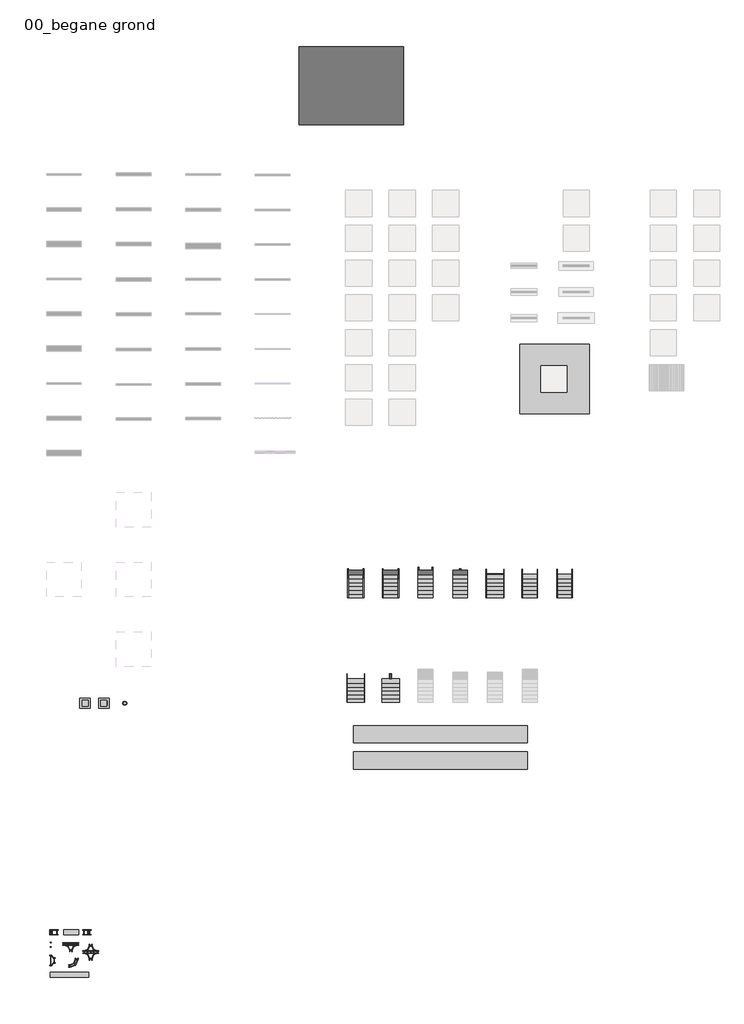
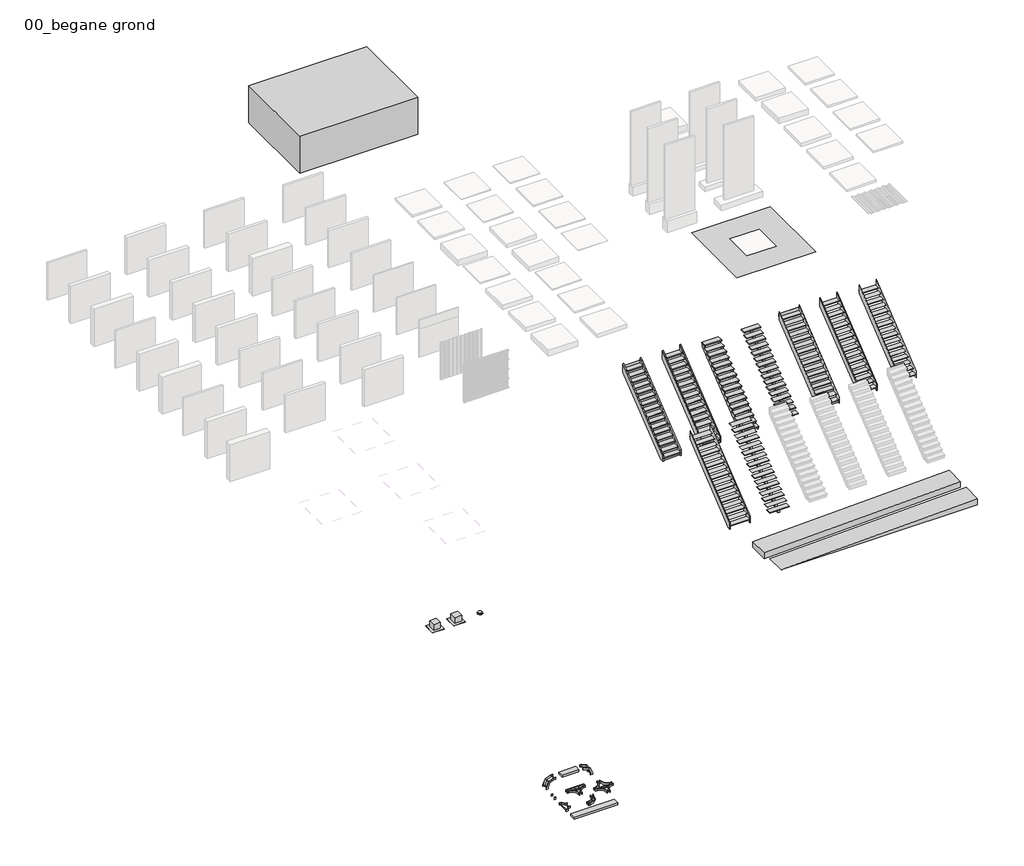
# One storey, part 3 of 3: 16 members, 9 stair flights, 7 cable carrier fittings, 3 air terminals, 2 cable carrier segments, 2 proxies, 2 ramps.
"""IFC4 building model written with IfcOpenShell, lengths in millimetres."""

from ifc_helpers import new_model, si_unit, frame, origin, origin_with_axes, place, context, project, spatial, polyline, outline, extrude, faceted_brep, triangles, transform, mapped, element, save
from components import air_terminal_7d5c8a7b, air_terminal_4e0f3b99, cable_carrier_fitting_0a3ec64d, cable_carrier_fitting_04c8f7b9, cable_carrier_fitting_357548b9, cable_carrier_fitting_f7e50797, cable_carrier_fitting_660f6fb6, t_stuk_radius_300_37264464, bocht_standaard_0cc64df2, ramp_d673f055, ramp_a4a3c088, stair_flight_aef03ee1, stair_flight_0d75ee49, stair_flight_a9d19ed3, stair_flight_d911f600, stair_flight_034ae34c, stair_flight_6bf14399, stair_flight_bdb9c17e, stair_flight_ba551373, stair_flight_c36d8fac

model = new_model("IFC4")

# Units and contexts
model_context = context("Model", 3, world=origin())
ifc_project = project(units=[si_unit("LENGTHUNIT", "METRE", prefix="MILLI")], contexts=[model_context])

# Site, building, storey
site = spatial("IfcSite", under=ifc_project)
building = spatial("IfcBuilding", under=site)
storey = spatial("IfcBuildingStorey", under=building, Name="00_begane grond", Elevation=0.0)

# Air terminals
placement = place(None, origin())
air_terminal_shape = air_terminal_7d5c8a7b(model_context)
element("IfcAirTerminal", 1, ObjectType="57_AT_afv_rozet_FB : afvoer_rozet_kanaaldiameter_200", at=placement, inside=storey, context=model_context, shape_type="MappedRepresentation", body=[
    mapped(air_terminal_shape, transform((4501.3584276, -31370.8951916, 0.0), x_axis=(1.0, 0.0, 0.0), y_axis=(0.0, 1.0, 0.0), z_axis=(0.0, 0.0, 1.0))),
])
air_terminal_2_shape = air_terminal_4e0f3b99(model_context)
element("IfcAirTerminal", 2, ObjectType="57_AT_plafondrooster_toev_rond_kanaal_FB : aanvoer_plafondrooster_kanaaldiameter_250", at=placement, inside=storey, context=model_context, shape_type="MappedRepresentation", body=[
    mapped(air_terminal_2_shape, transform((3290.0226863, -31370.8951916, 0.0), x_axis=(1.0, 0.0, 0.0), y_axis=(0.0, 1.0, 0.0), z_axis=(0.0, 0.0, 1.0))),
])
element("IfcAirTerminal", 3, ObjectType="57_AT_plafondrooster_afv_rond_kanaal_FB : afvoer_plafondrooster_kanaaldiameter_250", at=placement, inside=storey, context=model_context, shape_type="MappedRepresentation", body=[
    mapped(air_terminal_2_shape, transform((2213.5065389, -31370.8951916, 0.0), x_axis=(1.0000000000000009, 0.0, 0.0), y_axis=(0.0, 1.0000000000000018, 0.0), z_axis=(0.0, 0.0, 1.0000000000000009))),
])

# Proxies
element("IfcBuildingElementProxy", 4, Name="Building Element Proxy", at=placement, inside=storey, context=model_context, shape_type="Tessellation", body=[
    triangles([(31193.3471558, -10755.0005035, 0.0), (27193.3471252, -10755.0005035, 0.0), (27193.3471252, -14734.9994293, 0.0), (31193.3471558, -14734.9994293, 0.0), (29913.3485413, -13494.9995361, 0.0), (28413.3470764, -13494.9995361, 0.0), (28413.3470764, -11995.0003967, 0.0), (28439.5780334, -11995.0003967, 0.0), (29913.3485413, -11995.0003967, 0.0), (29913.3485413, -13461.4004242, 0.0)], [[3, 6, 2], [6, 3, 5], [2, 7, 8], [7, 2, 6], [2, 8, 9], [5, 4, 10], [4, 5, 3], [10, 1, 9], [1, 10, 4], [9, 1, 2]], closed=False),
])
element("IfcBuildingElementProxy", 5, Name="00_Mass_bestaand : 00_Mass_bestaand", ObjectType="00_Mass_bestaand : 00_Mass_bestaand", at=placement, inside=storey, context=model_context, shape_type="SweptSolid", body=[
    extrude(outline(polyline([(20515.0516087, 1866.0501739), (14515.0516087, 1866.0501739), (14515.0516087, 6346.7455253), (20515.0516087, 6346.7455253), (20515.0516087, 1866.0501739)])), origin_with_axes(), (0.0, 0.0, 1.0), 2000.0),
])

# Cable carrier fittings
cable_carrier_fitting_shape = cable_carrier_fitting_0a3ec64d(model_context)
element("IfcCableCarrierFitting", 6, ObjectType="61_CTF_kabelgoot_open_verbinding : verbindingsstuk, standaard", at=placement, inside=storey, context=model_context, shape_type="MappedRepresentation", body=[
    mapped(cable_carrier_fitting_shape, transform((204.2081152, -45238.8426915, 0.0), x_axis=(1.0, 0.0, 0.0), y_axis=(0.0, 1.0, 0.0), z_axis=(0.0, 0.0, 1.0))),
])
cable_carrier_fitting_2_shape = cable_carrier_fitting_04c8f7b9(model_context)
element("IfcCableCarrierFitting", 7, ObjectType="61_CTF_kabelgoot_open_verloop : verloopstuk, standaard", at=placement, inside=storey, context=model_context, shape_type="MappedRepresentation", body=[
    mapped(cable_carrier_fitting_2_shape, transform((192.3885863, -46147.5301991, 0.0), x_axis=(1.0, 0.0, 0.0), y_axis=(0.0, 1.0, 0.0), z_axis=(0.0, 0.0, 1.0))),
])
cable_carrier_fitting_3_shape = cable_carrier_fitting_357548b9(model_context)
element("IfcCableCarrierFitting", 8, ObjectType="61_CTF_kabelgoot_open_bocht_verticaal_buiten : bocht verticaal buiten, standaard", at=placement, inside=storey, context=model_context, shape_type="MappedRepresentation", body=[
    mapped(cable_carrier_fitting_3_shape, transform((2510.1495712, -44528.0962466, 492.4203814), x_axis=(1.0, 0.0, 0.0), y_axis=(0.0, 0.0, 1.0), z_axis=(0.0, -1.0, 0.0))),
])
cable_carrier_fitting_4_shape = cable_carrier_fitting_f7e50797(model_context)
element("IfcCableCarrierFitting", 9, ObjectType="61_CTF_kabelgoot_open_bocht_verticaal_binnen : bocht verticaal binnen, standaard", at=placement, inside=storey, context=model_context, shape_type="MappedRepresentation", body=[
    mapped(cable_carrier_fitting_4_shape, transform((247.461144, -44528.0962466, 492.4203814), x_axis=(-1.0, 0.0, 0.0), y_axis=(0.0, 0.0, 1.0), z_axis=(0.0, 1.0, 0.0))),
])
cable_carrier_fitting_5_shape = cable_carrier_fitting_660f6fb6(model_context)
element("IfcCableCarrierFitting", 10, ObjectType="61_CTF_kabelgoot_open_kruising : kruising, radius_300", at=placement, inside=storey, context=model_context, shape_type="MappedRepresentation", body=[
    mapped(cable_carrier_fitting_5_shape, transform((2540.7858423, -45666.2868281, 0.0), x_axis=(1.0, 0.0, 0.0), y_axis=(0.0, 1.0, 0.0), z_axis=(0.0, 0.0, 1.0))),
])
t_stuk_radius_300_shape = t_stuk_radius_300_37264464(model_context)
element("IfcCableCarrierFitting", 11, ObjectType="61_CTF_kabelgoot_open_Tsplitsing : T-stuk, radius_300", at=placement, inside=storey, context=model_context, shape_type="MappedRepresentation", body=[
    mapped(t_stuk_radius_300_shape, transform((1396.1092616, -45190.884832, 0.0), x_axis=(1.0, 0.0, 0.0), y_axis=(0.0, 1.0, 0.0), z_axis=(0.0, 0.0, 1.0))),
])
bocht_standaard_shape = bocht_standaard_0cc64df2(model_context)
element("IfcCableCarrierFitting", 12, ObjectType="61_CTF_kabelgoot_open_bocht_horizontaal : bocht, standaard", at=placement, inside=storey, context=model_context, shape_type="MappedRepresentation", body=[
    mapped(bocht_standaard_shape, transform((1733.5288566, -46462.2769125, 0.0), x_axis=(1.0, 0.0, 0.0), y_axis=(0.0, 1.0, 0.0), z_axis=(0.0, 0.0, 1.0))),
])

# Cable carrier segments
element("IfcCableCarrierSegment", 13, ObjectType="61_CT_kabelgoot_open", at=placement, inside=storey, context=model_context, shape_type="SweptSolid", body=[
    extrude(outline(polyline([(1000.0, -44678.0962466), (1000.0, -44378.0962466), (1860.0, -44378.0962466), (1860.0, -44678.0962466), (1000.0, -44678.0962466)])), frame((0.0, 0.0, 442.4203814), z_axis=(0.0, 0.0, 1.0), x_axis=(1.0, 0.0, 0.0)), (0.0, 0.0, 1.0), 100.0),
])
element("IfcCableCarrierSegment", 14, ObjectType="61_CT_kabelgoot_open", at=placement, inside=storey, context=model_context, shape_type="SweptSolid", body=[
    extrude(outline(polyline([(212.5341088, -47119.218937), (212.5341088, -46819.218937), (2432.5341088, -46819.218937), (2432.5341088, -47119.218937), (212.5341088, -47119.218937)])), frame((0.0, 0.0, -50.0), z_axis=(0.0, 0.0, 1.0), x_axis=(1.0, 0.0, 0.0)), (0.0, 0.0, 1.0), 100.0),
])

# Members
element("IfcMember", 15, ObjectType="24_STS_trapboom_hout_vuren_45x50", at=placement, inside=storey, context=model_context, shape_type="SweptSolid", body=[
    extrude(outline(polyline([(-25324.6322236, 0.0), (-25324.6322236, 296.4603123), (-21804.6322236, 3119.989724), (-21804.6322236, 2671.3029604), (-25134.8565809, 0.0), (-25324.6322236, 0.0)])), frame((17304.8089026, 0.0, 0.0), z_axis=(1.0, 0.0, 0.0), x_axis=(0.0, 1.0, 0.0)), (0.0, 0.0, 1.0), 45.0),
])
element("IfcMember", 16, ObjectType="24_STS_trapboom_hout_vuren_45x50", at=placement, inside=storey, context=model_context, shape_type="SweptSolid", body=[
    extrude(outline(polyline([(-25324.6322236, 0.0), (-25324.6322236, 296.4603123), (-21804.6322236, 3119.989724), (-21804.6322236, 2671.3029604), (-25134.8565809, 0.0), (-25324.6322236, 0.0)])), frame((18199.8089026, 0.0, 0.0), z_axis=(1.0, 0.0, 0.0), x_axis=(0.0, 1.0, 0.0)), (0.0, 0.0, 1.0), 45.0),
])
element("IfcMember", 17, ObjectType="24_STS_trapboom_hout_vuren_45x50", at=placement, inside=storey, context=model_context, shape_type="SweptSolid", body=[
    extrude(outline(polyline([(-25324.6322236, 0.0), (-25324.6322236, 304.4817026), (-21804.6322236, 3128.0111144), (-21804.6322236, 2679.3243508), (-25144.8565809, 0.0), (-25324.6322236, 0.0)])), frame((19304.8089026, 0.0, 0.0), z_axis=(1.0, 0.0, 0.0), x_axis=(0.0, 1.0, 0.0)), (0.0, 0.0, 1.0), 45.0),
])
element("IfcMember", 18, ObjectType="24_STS_trapboom_hout_vuren_45x50", at=placement, inside=storey, context=model_context, shape_type="SweptSolid", body=[
    extrude(outline(polyline([(-25324.6322236, 0.0), (-25324.6322236, 304.4817026), (-21804.6322236, 3128.0111144), (-21804.6322236, 2679.3243508), (-25144.8565809, 0.0), (-25324.6322236, 0.0)])), frame((20199.8089026, 0.0, 0.0), z_axis=(1.0, 0.0, 0.0), x_axis=(0.0, 1.0, 0.0)), (0.0, 0.0, 1.0), 45.0),
])
element("IfcMember", 19, ObjectType="24_STC_middenboom_hout_vuren_45x100", at=placement, inside=storey, context=model_context, shape_type="Brep", body=[
    faceted_brep([(21349.8089026, -25274.6322236, 0.0), (21349.8089026, -25064.9476049, 0.0), (21394.8089026, -25064.9476049, 0.0), (21394.8089026, -25274.6322236, 0.0), (21394.8089026, -21804.6322236, 2615.2262417), (21349.8089026, -21804.6322236, 2615.2262417), (21349.8089026, -21804.6322236, 2783.5294118), (21394.8089026, -21804.6322236, 2783.5294118), (21349.8089026, -25054.6322236, 8.2743701), (21349.8089026, -24834.6322236, 184.7449583), (21349.8089026, -24614.6322236, 361.2155465), (21349.8089026, -24394.6322236, 537.6861348), (21349.8089026, -24174.6322236, 714.156723), (21349.8089026, -23954.6322236, 890.6273112), (21349.8089026, -23734.6322236, 1067.0978995), (21349.8089026, -23514.6322236, 1243.5684877), (21349.8089026, -23294.6322236, 1420.0390759), (21349.8089026, -23074.6322236, 1596.5096642), (21349.8089026, -22854.6322236, 1772.9802524), (21349.8089026, -22634.6322236, 1949.4508407), (21349.8089026, -22414.6322236, 2125.9214289), (21349.8089026, -22194.6322236, 2302.3920171), (21349.8089026, -21974.6322236, 2478.8626054), (21349.8089026, -25274.6322236, 136.4705882), (21349.8089026, -25054.6322236, 136.4705882), (21349.8089026, -25054.6322236, 312.9411765), (21349.8089026, -24834.6322236, 312.9411765), (21349.8089026, -24834.6322236, 489.4117647), (21349.8089026, -24614.6322236, 489.4117647), (21349.8089026, -24614.6322236, 665.8823529), (21349.8089026, -24394.6322236, 665.8823529), (21349.8089026, -24394.6322236, 842.3529412), (21349.8089026, -24174.6322236, 842.3529412), (21349.8089026, -24174.6322236, 1018.8235294), (21349.8089026, -23954.6322236, 1018.8235294), (21349.8089026, -23954.6322236, 1195.2941176), (21349.8089026, -23734.6322236, 1195.2941176), (21349.8089026, -23734.6322236, 1371.7647059), (21349.8089026, -23514.6322236, 1371.7647059), (21349.8089026, -23514.6322236, 1548.2352941), (21349.8089026, -23294.6322236, 1548.2352941), (21349.8089026, -23294.6322236, 1724.7058824), (21349.8089026, -23074.6322236, 1724.7058824), (21349.8089026, -23074.6322236, 1901.1764706), (21349.8089026, -22854.6322236, 1901.1764706), (21349.8089026, -22854.6322236, 2077.6470588), (21349.8089026, -22634.6322236, 2077.6470588), (21349.8089026, -22634.6322236, 2254.1176471), (21349.8089026, -22414.6322236, 2254.1176471), (21349.8089026, -22414.6322236, 2430.5882353), (21349.8089026, -22194.6322236, 2430.5882353), (21349.8089026, -22194.6322236, 2607.0588235), (21349.8089026, -21974.6322236, 2607.0588235), (21349.8089026, -21974.6322236, 2783.5294118), (21394.8089026, -21974.6322236, 2783.5294118), (21394.8089026, -21974.6322236, 2607.0588235), (21394.8089026, -22194.6322236, 2607.0588235), (21394.8089026, -22194.6322236, 2430.5882353), (21394.8089026, -22414.6322236, 2430.5882353), (21394.8089026, -22414.6322236, 2254.1176471), (21394.8089026, -22634.6322236, 2254.1176471), (21394.8089026, -22634.6322236, 2077.6470588), (21394.8089026, -22854.6322236, 2077.6470588), (21394.8089026, -22854.6322236, 1901.1764706), (21394.8089026, -23074.6322236, 1901.1764706), (21394.8089026, -23074.6322236, 1724.7058824), (21394.8089026, -23294.6322236, 1724.7058824), (21394.8089026, -23294.6322236, 1548.2352941), (21394.8089026, -23514.6322236, 1548.2352941), (21394.8089026, -23514.6322236, 1371.7647059), (21394.8089026, -23734.6322236, 1371.7647059), (21394.8089026, -23734.6322236, 1195.2941176), (21394.8089026, -23954.6322236, 1195.2941176), (21394.8089026, -23954.6322236, 1018.8235294), (21394.8089026, -24174.6322236, 1018.8235294), (21394.8089026, -24174.6322236, 842.3529412), (21394.8089026, -24394.6322236, 842.3529412), (21394.8089026, -24394.6322236, 665.8823529), (21394.8089026, -24614.6322236, 665.8823529), (21394.8089026, -24614.6322236, 489.4117647), (21394.8089026, -24834.6322236, 489.4117647), (21394.8089026, -24834.6322236, 312.9411765), (21394.8089026, -25054.6322236, 312.9411765), (21394.8089026, -25054.6322236, 136.4705882), (21394.8089026, -25274.6322236, 136.4705882)], [[[0, 1, 2, 3]], [[4, 5, 6, 7]], [[5, 4, 2, 1, 8, 9, 10, 11, 12, 13, 14, 15, 16, 17, 18, 19, 20, 21, 22]], [[6, 5, 22, 21, 20, 19, 18, 17, 16, 15, 14, 13, 12, 11, 10, 9, 8, 1, 0, 23, 24, 25, 26, 27, 28, 29, 30, 31, 32, 33, 34, 35, 36, 37, 38, 39, 40, 41, 42, 43, 44, 45, 46, 47, 48, 49, 50, 51, 52, 53]], [[53, 54, 7, 6]], [[4, 7, 54, 55, 56, 57, 58, 59, 60, 61, 62, 63, 64, 65, 66, 67, 68, 69, 70, 71, 72, 73, 74, 75, 76, 77, 78, 79, 80, 81, 82, 83, 84, 3, 2]], [[84, 23, 0, 3]], [[23, 84, 83, 24]], [[24, 83, 82, 25]], [[25, 82, 81, 26]], [[26, 81, 80, 27]], [[27, 80, 79, 28]], [[28, 79, 78, 29]], [[29, 78, 77, 30]], [[30, 77, 76, 31]], [[31, 76, 75, 32]], [[32, 75, 74, 33]], [[33, 74, 73, 34]], [[34, 73, 72, 35]], [[35, 72, 71, 36]], [[36, 71, 70, 37]], [[37, 70, 69, 38]], [[38, 69, 68, 39]], [[39, 68, 67, 40]], [[40, 67, 66, 41]], [[41, 66, 65, 42]], [[42, 65, 64, 43]], [[43, 64, 63, 44]], [[44, 63, 62, 45]], [[45, 62, 61, 46]], [[46, 61, 60, 47]], [[47, 60, 59, 48]], [[48, 59, 58, 49]], [[49, 58, 57, 50]], [[50, 57, 56, 51]], [[51, 56, 55, 52]], [[52, 55, 54, 53]]]),
])
element("IfcMember", 20, ObjectType="24_STC_middenboom_hout_vuren_45x100", at=placement, inside=storey, context=model_context, shape_type="Brep", body=[
    faceted_brep([(22154.8089026, -25274.6322236, 0.0), (22154.8089026, -25064.9476049, 0.0), (22199.8089026, -25064.9476049, 0.0), (22199.8089026, -25274.6322236, 0.0), (22199.8089026, -21804.6322236, 2615.2262417), (22154.8089026, -21804.6322236, 2615.2262417), (22154.8089026, -21804.6322236, 2783.5294118), (22199.8089026, -21804.6322236, 2783.5294118), (22199.8089026, -21974.6322236, 2478.8626054), (22199.8089026, -22194.6322236, 2302.3920171), (22199.8089026, -22414.6322236, 2125.9214289), (22199.8089026, -22634.6322236, 1949.4508407), (22199.8089026, -22854.6322236, 1772.9802524), (22199.8089026, -23074.6322236, 1596.5096642), (22199.8089026, -23294.6322236, 1420.0390759), (22199.8089026, -23514.6322236, 1243.5684877), (22199.8089026, -23734.6322236, 1067.0978995), (22199.8089026, -23954.6322236, 890.6273112), (22199.8089026, -24174.6322236, 714.156723), (22199.8089026, -24394.6322236, 537.6861348), (22199.8089026, -24614.6322236, 361.2155465), (22199.8089026, -24834.6322236, 184.7449583), (22199.8089026, -25054.6322236, 8.2743701), (22154.8089026, -25274.6322236, 136.4705882), (22154.8089026, -25054.6322236, 136.4705882), (22154.8089026, -25054.6322236, 312.9411765), (22154.8089026, -24834.6322236, 312.9411765), (22154.8089026, -24834.6322236, 489.4117647), (22154.8089026, -24614.6322236, 489.4117647), (22154.8089026, -24614.6322236, 665.8823529), (22154.8089026, -24394.6322236, 665.8823529), (22154.8089026, -24394.6322236, 842.3529412), (22154.8089026, -24174.6322236, 842.3529412), (22154.8089026, -24174.6322236, 1018.8235294), (22154.8089026, -23954.6322236, 1018.8235294), (22154.8089026, -23954.6322236, 1195.2941176), (22154.8089026, -23734.6322236, 1195.2941176), (22154.8089026, -23734.6322236, 1371.7647059), (22154.8089026, -23514.6322236, 1371.7647059), (22154.8089026, -23514.6322236, 1548.2352941), (22154.8089026, -23294.6322236, 1548.2352941), (22154.8089026, -23294.6322236, 1724.7058824), (22154.8089026, -23074.6322236, 1724.7058824), (22154.8089026, -23074.6322236, 1901.1764706), (22154.8089026, -22854.6322236, 1901.1764706), (22154.8089026, -22854.6322236, 2077.6470588), (22154.8089026, -22634.6322236, 2077.6470588), (22154.8089026, -22634.6322236, 2254.1176471), (22154.8089026, -22414.6322236, 2254.1176471), (22154.8089026, -22414.6322236, 2430.5882353), (22154.8089026, -22194.6322236, 2430.5882353), (22154.8089026, -22194.6322236, 2607.0588235), (22154.8089026, -21974.6322236, 2607.0588235), (22154.8089026, -21974.6322236, 2783.5294118), (22199.8089026, -21974.6322236, 2783.5294118), (22199.8089026, -21974.6322236, 2607.0588235), (22199.8089026, -22194.6322236, 2607.0588235), (22199.8089026, -22194.6322236, 2430.5882353), (22199.8089026, -22414.6322236, 2430.5882353), (22199.8089026, -22414.6322236, 2254.1176471), (22199.8089026, -22634.6322236, 2254.1176471), (22199.8089026, -22634.6322236, 2077.6470588), (22199.8089026, -22854.6322236, 2077.6470588), (22199.8089026, -22854.6322236, 1901.1764706), (22199.8089026, -23074.6322236, 1901.1764706), (22199.8089026, -23074.6322236, 1724.7058824), (22199.8089026, -23294.6322236, 1724.7058824), (22199.8089026, -23294.6322236, 1548.2352941), (22199.8089026, -23514.6322236, 1548.2352941), (22199.8089026, -23514.6322236, 1371.7647059), (22199.8089026, -23734.6322236, 1371.7647059), (22199.8089026, -23734.6322236, 1195.2941176), (22199.8089026, -23954.6322236, 1195.2941176), (22199.8089026, -23954.6322236, 1018.8235294), (22199.8089026, -24174.6322236, 1018.8235294), (22199.8089026, -24174.6322236, 842.3529412), (22199.8089026, -24394.6322236, 842.3529412), (22199.8089026, -24394.6322236, 665.8823529), (22199.8089026, -24614.6322236, 665.8823529), (22199.8089026, -24614.6322236, 489.4117647), (22199.8089026, -24834.6322236, 489.4117647), (22199.8089026, -24834.6322236, 312.9411765), (22199.8089026, -25054.6322236, 312.9411765), (22199.8089026, -25054.6322236, 136.4705882), (22199.8089026, -25274.6322236, 136.4705882)], [[[0, 1, 2, 3]], [[4, 5, 6, 7]], [[5, 4, 8, 9, 10, 11, 12, 13, 14, 15, 16, 17, 18, 19, 20, 21, 22, 2, 1]], [[6, 5, 1, 0, 23, 24, 25, 26, 27, 28, 29, 30, 31, 32, 33, 34, 35, 36, 37, 38, 39, 40, 41, 42, 43, 44, 45, 46, 47, 48, 49, 50, 51, 52, 53]], [[53, 54, 7, 6]], [[4, 7, 54, 55, 56, 57, 58, 59, 60, 61, 62, 63, 64, 65, 66, 67, 68, 69, 70, 71, 72, 73, 74, 75, 76, 77, 78, 79, 80, 81, 82, 83, 84, 3, 2, 22, 21, 20, 19, 18, 17, 16, 15, 14, 13, 12, 11, 10, 9, 8]], [[84, 23, 0, 3]], [[23, 84, 83, 24]], [[24, 83, 82, 25]], [[25, 82, 81, 26]], [[26, 81, 80, 27]], [[27, 80, 79, 28]], [[28, 79, 78, 29]], [[29, 78, 77, 30]], [[30, 77, 76, 31]], [[31, 76, 75, 32]], [[32, 75, 74, 33]], [[33, 74, 73, 34]], [[34, 73, 72, 35]], [[35, 72, 71, 36]], [[36, 71, 70, 37]], [[37, 70, 69, 38]], [[38, 69, 68, 39]], [[39, 68, 67, 40]], [[40, 67, 66, 41]], [[41, 66, 65, 42]], [[42, 65, 64, 43]], [[43, 64, 63, 44]], [[44, 63, 62, 45]], [[45, 62, 61, 46]], [[46, 61, 60, 47]], [[47, 60, 59, 48]], [[48, 59, 58, 49]], [[49, 58, 57, 50]], [[50, 57, 56, 51]], [[51, 56, 55, 52]], [[52, 55, 54, 53]]]),
])
element("IfcMember", 21, ObjectType="24_STC_middenboom_hout_vuren_100x50", at=placement, inside=storey, context=model_context, shape_type="SweptSolid", body=[
    extrude(outline(polyline([(-21804.6322236, 2783.5294118), (-21804.6322236, 2679.3243508), (-25144.8565809, 0.0), (-25274.6322236, 0.0), (-25274.6322236, 136.4705882), (-25054.6322236, 136.4705882), (-25054.6322236, 312.9411765), (-24834.6322236, 312.9411765), (-24834.6322236, 489.4117647), (-24614.6322236, 489.4117647), (-24614.6322236, 665.8823529), (-24394.6322236, 665.8823529), (-24394.6322236, 842.3529412), (-24174.6322236, 842.3529412), (-24174.6322236, 1018.8235294), (-23954.6322236, 1018.8235294), (-23954.6322236, 1195.2941176), (-23734.6322236, 1195.2941176), (-23734.6322236, 1371.7647059), (-23514.6322236, 1371.7647059), (-23514.6322236, 1548.2352941), (-23294.6322236, 1548.2352941), (-23294.6322236, 1724.7058824), (-23074.6322236, 1724.7058824), (-23074.6322236, 1901.1764706), (-22854.6322236, 1901.1764706), (-22854.6322236, 2077.6470588), (-22634.6322236, 2077.6470588), (-22634.6322236, 2254.1176471), (-22414.6322236, 2254.1176471), (-22414.6322236, 2430.5882353), (-22194.6322236, 2430.5882353), (-22194.6322236, 2607.0588235), (-21974.6322236, 2607.0588235), (-21974.6322236, 2783.5294118), (-21804.6322236, 2783.5294118)])), frame((23724.8089026, 0.0, 0.0), z_axis=(1.0, 0.0, 0.0), x_axis=(0.0, 1.0, 0.0)), (0.0, 0.0, 1.0), 100.0),
])
element("IfcMember", 22, ObjectType="24_STS_trapboom_hout_vuren_15x50", at=placement, inside=storey, context=model_context, shape_type="SweptSolid", body=[
    extrude(outline(polyline([(-25324.6322236, 0.0), (-25324.6322236, 317.4496171), (-21804.6322236, 3140.9790288), (-21804.6322236, 2692.2922652), (-25161.0232476, 0.0), (-25324.6322236, 0.0)])), frame((25259.8089026, 0.0, 0.0), z_axis=(1.0, 0.0, 0.0), x_axis=(0.0, 1.0, 0.0)), (0.0, 0.0, 1.0), 15.0),
])
element("IfcMember", 23, ObjectType="24_STS_trapboom_hout_vuren_15x50", at=placement, inside=storey, context=model_context, shape_type="SweptSolid", body=[
    extrude(outline(polyline([(-25324.6322236, 0.0), (-25324.6322236, 317.4496171), (-21804.6322236, 3140.9790288), (-21804.6322236, 2692.2922652), (-25161.0232476, 0.0), (-25324.6322236, 0.0)])), frame((26274.8089026, 0.0, 0.0), z_axis=(1.0, 0.0, 0.0), x_axis=(0.0, 1.0, 0.0)), (0.0, 0.0, 1.0), 15.0),
])
element("IfcMember", 24, ObjectType="24_STS_trapboom_hout_vuren_15x50", at=placement, inside=storey, context=model_context, shape_type="SweptSolid", body=[
    extrude(outline(polyline([(-25324.6322236, 0.0), (-25324.6322236, 329.4817026), (-21804.6322236, 3153.0111144), (-21804.6322236, 2704.3243508), (-25176.0232476, 0.0), (-25324.6322236, 0.0)])), frame((27334.8089026, 0.0, 0.0), z_axis=(1.0, 0.0, 0.0), x_axis=(0.0, 1.0, 0.0)), (0.0, 0.0, 1.0), 15.0),
])
element("IfcMember", 25, ObjectType="24_STS_trapboom_hout_vuren_15x50", at=placement, inside=storey, context=model_context, shape_type="SweptSolid", body=[
    extrude(outline(polyline([(-25324.6322236, 0.0), (-25324.6322236, 329.4817026), (-21804.6322236, 3153.0111144), (-21804.6322236, 2704.3243508), (-25176.0232476, 0.0), (-25324.6322236, 0.0)])), frame((28199.8089026, 0.0, 0.0), z_axis=(1.0, 0.0, 0.0), x_axis=(0.0, 1.0, 0.0)), (0.0, 0.0, 1.0), 15.0),
])
element("IfcMember", 26, ObjectType="24_STS_trapboom_hout_vuren_15x50", at=placement, inside=storey, context=model_context, shape_type="SweptSolid", body=[
    extrude(outline(polyline([(-25324.6322236, 0.0), (-25324.6322236, 329.4817026), (-21804.6322236, 3153.0111144), (-21804.6322236, 2704.3243508), (-25176.0232476, 0.0), (-25324.6322236, 0.0)])), frame((29334.8089026, 0.0, 0.0), z_axis=(1.0, 0.0, 0.0), x_axis=(0.0, 1.0, 0.0)), (0.0, 0.0, 1.0), 15.0),
])
element("IfcMember", 27, ObjectType="24_STS_trapboom_hout_vuren_15x50", at=placement, inside=storey, context=model_context, shape_type="SweptSolid", body=[
    extrude(outline(polyline([(-25324.6322236, 0.0), (-25324.6322236, 329.4817026), (-21804.6322236, 3153.0111144), (-21804.6322236, 2704.3243508), (-25176.0232476, 0.0), (-25324.6322236, 0.0)])), frame((30199.8089026, 0.0, 0.0), z_axis=(1.0, 0.0, 0.0), x_axis=(0.0, 1.0, 0.0)), (0.0, 0.0, 1.0), 15.0),
])
element("IfcMember", 28, ObjectType="24_STS_trapboom_hout_vuren_15x50", at=placement, inside=storey, context=model_context, shape_type="SweptSolid", body=[
    extrude(outline(polyline([(-31324.6322236, 0.0), (-31324.6322236, 329.4817026), (-27804.6322236, 3153.0111144), (-27804.6322236, 2704.3243508), (-31176.0232476, 0.0), (-31324.6322236, 0.0)])), frame((17259.8089026, 0.0, 0.0), z_axis=(1.0, 0.0, 0.0), x_axis=(0.0, 1.0, 0.0)), (0.0, 0.0, 1.0), 15.0),
])
element("IfcMember", 29, ObjectType="24_STS_trapboom_hout_vuren_15x50", at=placement, inside=storey, context=model_context, shape_type="SweptSolid", body=[
    extrude(outline(polyline([(-31324.6322236, 0.0), (-31324.6322236, 329.4817026), (-27804.6322236, 3153.0111144), (-27804.6322236, 2704.3243508), (-31176.0232476, 0.0), (-31324.6322236, 0.0)])), frame((18274.8089026, 0.0, 0.0), z_axis=(1.0, 0.0, 0.0), x_axis=(0.0, 1.0, 0.0)), (0.0, 0.0, 1.0), 15.0),
])
element("IfcMember", 30, ObjectType="24_STC_middenboom_hout_vuren_100x50", at=placement, inside=storey, context=model_context, shape_type="SweptSolid", body=[
    extrude(outline(polyline([(-27804.6322236, 2808.5294118), (-27804.6322236, 2704.3243508), (-31176.0232476, 0.0), (-31274.6322236, 0.0), (-31274.6322236, 161.4705882), (-31054.6322236, 161.4705882), (-31054.6322236, 337.9411765), (-30834.6322236, 337.9411765), (-30834.6322236, 514.4117647), (-30614.6322236, 514.4117647), (-30614.6322236, 690.8823529), (-30394.6322236, 690.8823529), (-30394.6322236, 867.3529412), (-30174.6322236, 867.3529412), (-30174.6322236, 1043.8235294), (-29954.6322236, 1043.8235294), (-29954.6322236, 1220.2941176), (-29734.6322236, 1220.2941176), (-29734.6322236, 1396.7647059), (-29514.6322236, 1396.7647059), (-29514.6322236, 1573.2352941), (-29294.6322236, 1573.2352941), (-29294.6322236, 1749.7058824), (-29074.6322236, 1749.7058824), (-29074.6322236, 1926.1764706), (-28854.6322236, 1926.1764706), (-28854.6322236, 2102.6470588), (-28634.6322236, 2102.6470588), (-28634.6322236, 2279.1176471), (-28414.6322236, 2279.1176471), (-28414.6322236, 2455.5882353), (-28194.6322236, 2455.5882353), (-28194.6322236, 2632.0588235), (-27974.6322236, 2632.0588235), (-27974.6322236, 2808.5294118), (-27804.6322236, 2808.5294118)])), frame((19724.8089026, 0.0, 0.0), z_axis=(1.0, 0.0, 0.0), x_axis=(0.0, 1.0, 0.0)), (0.0, 0.0, 1.0), 100.0),
])

# Ramps
ramp_shape = ramp_d673f055(model_context)
element("IfcRamp", 31, ObjectType="24_RA_hellingbaan_beton_prefab_300", at=placement, inside=storey, context=model_context, shape_type="MappedRepresentation", body=[
    mapped(ramp_shape, transform((0.0, 0.0, 0.0), x_axis=(1.0, 0.0, 0.0), y_axis=(0.0, 1.0, 0.0), z_axis=(0.0, 0.0, 1.0))),
])
ramp_2_shape = ramp_a4a3c088(model_context)
element("IfcRamp", 32, ObjectType="24_RA_hellingbaan_beton_prefab_solid", at=placement, inside=storey, context=model_context, shape_type="MappedRepresentation", body=[
    mapped(ramp_2_shape, transform((0.0, 0.0, 0.0), x_axis=(1.0, 0.0, 0.0), y_axis=(0.0, 1.0, 0.0), z_axis=(0.0, 0.0, 1.0))),
])

# Stair flights
stair_flight_shape = stair_flight_aef03ee1(model_context)
element("IfcStairFlight", 33, ObjectType="24_STR_trede_hout_vuren_40_neus_50_stootbord_10", at=placement, inside=storey, context=model_context, shape_type="MappedRepresentation", body=[
    mapped(stair_flight_shape, transform((0.0, 0.0, 0.0), x_axis=(1.0, 0.0, 0.0), y_axis=(0.0, 1.0, 0.0), z_axis=(0.0, 0.0, 1.0))),
])
stair_flight_2_shape = stair_flight_0d75ee49(model_context)
element("IfcStairFlight", 34, ObjectType="24_STR_trede_hout_vuren_40_neus_50", at=placement, inside=storey, context=model_context, shape_type="MappedRepresentation", body=[
    mapped(stair_flight_2_shape, transform((0.0, 0.0, 0.0), x_axis=(1.0, 0.0, 0.0), y_axis=(0.0, 1.0, 0.0), z_axis=(0.0, 0.0, 1.0))),
])
stair_flight_3_shape = stair_flight_a9d19ed3(model_context)
element("IfcStairFlight", 35, ObjectType="24_STR_trede_hout_vuren_40_neus_50", at=placement, inside=storey, context=model_context, shape_type="MappedRepresentation", body=[
    mapped(stair_flight_3_shape, transform((0.0, 0.0, 0.0), x_axis=(1.0, 0.0, 0.0), y_axis=(0.0, 1.0, 0.0), z_axis=(0.0, 0.0, 1.0))),
])
stair_flight_4_shape = stair_flight_d911f600(model_context)
element("IfcStairFlight", 36, ObjectType="24_STR_trede_hout_vuren_40_neus_50", at=placement, inside=storey, context=model_context, shape_type="MappedRepresentation", body=[
    mapped(stair_flight_4_shape, transform((0.0, 0.0, 0.0), x_axis=(1.0, 0.0, 0.0), y_axis=(0.0, 1.0, 0.0), z_axis=(0.0, 0.0, 1.0))),
])
stair_flight_5_shape = stair_flight_034ae34c(model_context)
element("IfcStairFlight", 37, ObjectType="24_STR_trede_staal_gegalvaniseerd_rooster_15_neus_50_stootbord_15", at=placement, inside=storey, context=model_context, shape_type="MappedRepresentation", body=[
    mapped(stair_flight_5_shape, transform((0.0, 0.0, 0.0), x_axis=(1.0, 0.0, 0.0), y_axis=(0.0, 1.0, 0.0), z_axis=(0.0, 0.0, 1.0))),
])
stair_flight_6_shape = stair_flight_6bf14399(model_context)
element("IfcStairFlight", 38, ObjectType="24_STR_trede_staal_gegalvaniseerd_rooster_15_neus_50", at=placement, inside=storey, context=model_context, shape_type="MappedRepresentation", body=[
    mapped(stair_flight_6_shape, transform((0.0, 0.0, 0.0), x_axis=(1.0, 0.0, 0.0), y_axis=(0.0, 1.0, 0.0), z_axis=(0.0, 0.0, 1.0))),
])
stair_flight_7_shape = stair_flight_bdb9c17e(model_context)
element("IfcStairFlight", 39, ObjectType="24_STR_trede_staal_gegalvaniseerd_rooster_15_neus_50", at=placement, inside=storey, context=model_context, shape_type="MappedRepresentation", body=[
    mapped(stair_flight_7_shape, transform((0.0, 0.0, 0.0), x_axis=(1.0, 0.0, 0.0), y_axis=(0.0, 1.0, 0.0), z_axis=(0.0, 0.0, 1.0))),
])
stair_flight_8_shape = stair_flight_ba551373(model_context)
element("IfcStairFlight", 40, ObjectType="24_STR_trede_staal_gegalvaniseerd_rooster_15_neus_50", at=placement, inside=storey, context=model_context, shape_type="MappedRepresentation", body=[
    mapped(stair_flight_8_shape, transform((0.0, 0.0, 0.0), x_axis=(1.0, 0.0, 0.0), y_axis=(0.0, 1.0, 0.0), z_axis=(0.0, 0.0, 1.0))),
])
stair_flight_9_shape = stair_flight_c36d8fac(model_context)
element("IfcStairFlight", 41, ObjectType="24_STR_trede_staal_gegalvaniseerd_rooster_15_neus_50", at=placement, inside=storey, context=model_context, shape_type="MappedRepresentation", body=[
    mapped(stair_flight_9_shape, transform((0.0, 0.0, 0.0), x_axis=(1.0, 0.0, 0.0), y_axis=(0.0, 1.0, 0.0), z_axis=(0.0, 0.0, 1.0))),
])

save(model, "model.ifc")
